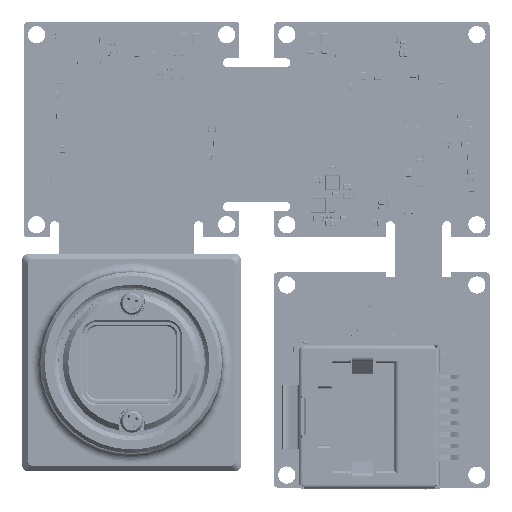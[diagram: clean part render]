
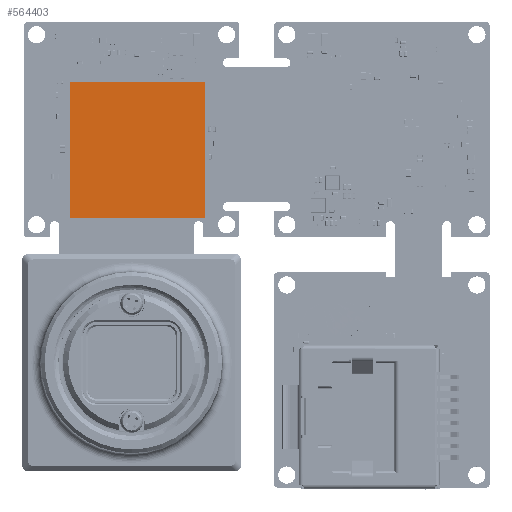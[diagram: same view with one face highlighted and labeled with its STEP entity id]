
A CAD part, top view. The second image highlights one B-rep face of the part: STEP entity #564403.
In plain terms, the highlighted planar face has unit normal (0, 0, 1).
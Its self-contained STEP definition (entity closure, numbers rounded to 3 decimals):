
#22840 = EDGE_CURVE ( 'NONE', #591928, #24368, #495520, .T. ) ;
#24368 = VERTEX_POINT ( 'NONE', #330013 ) ;
#34378 = ORIENTED_EDGE ( 'NONE', *, *, #433440, .T. ) ;
#49668 = FACE_OUTER_BOUND ( 'NONE', #302715, .T. ) ;
#84960 = DIRECTION ( 'NONE',  ( 0., -1., 0. ) ) ;
#111087 = EDGE_CURVE ( 'NONE', #24368, #458310, #391848, .T. ) ;
#139451 = ORIENTED_EDGE ( 'NONE', *, *, #111087, .T. ) ;
#165802 = CARTESIAN_POINT ( 'NONE',  ( 8.16, 15.999, -0.75 ) ) ;
#186534 = VERTEX_POINT ( 'NONE', #283604 ) ;
#193453 = LINE ( 'NONE', #494089, #255532 ) ;
#221272 = ORIENTED_EDGE ( 'NONE', *, *, #22840, .T. ) ;
#228778 = CARTESIAN_POINT ( 'NONE',  ( 8.16, 30.999, -0.75 ) ) ;
#255532 = VECTOR ( 'NONE', #296941, 1000. ) ;
#282853 = EDGE_CURVE ( 'NONE', #186534, #591928, #193453, .T. ) ;
#283604 = CARTESIAN_POINT ( 'NONE',  ( -6.84, 30.999, -0.75 ) ) ;
#296941 = DIRECTION ( 'NONE',  ( 0., -1., 0. ) ) ;
#302715 = EDGE_LOOP ( 'NONE', ( #375932, #221272, #139451, #34378 ) ) ;
#330013 = CARTESIAN_POINT ( 'NONE',  ( 8.16, 15.999, -0.75 ) ) ;
#333776 = PLANE ( 'NONE',  #568819 ) ;
#363624 = VECTOR ( 'NONE', #364773, 1000. ) ;
#364773 = DIRECTION ( 'NONE',  ( 1., 0., 0. ) ) ;
#375932 = ORIENTED_EDGE ( 'NONE', *, *, #282853, .T. ) ;
#391848 = LINE ( 'NONE', #165802, #469606 ) ;
#433440 = EDGE_CURVE ( 'NONE', #458310, #186534, #508062, .T. ) ;
#458310 = VERTEX_POINT ( 'NONE', #228778 ) ;
#469606 = VECTOR ( 'NONE', #560109, 1000. ) ;
#474866 = DIRECTION ( 'NONE',  ( 0., 0., -1. ) ) ;
#476979 = CARTESIAN_POINT ( 'NONE',  ( 8.16, 30.999, -0.75 ) ) ;
#494089 = CARTESIAN_POINT ( 'NONE',  ( -6.84, 30.999, -0.75 ) ) ;
#495520 = LINE ( 'NONE', #555650, #363624 ) ;
#508062 = LINE ( 'NONE', #555158, #624239 ) ;
#508732 = CARTESIAN_POINT ( 'NONE',  ( -6.84, 15.999, -0.75 ) ) ;
#555158 = CARTESIAN_POINT ( 'NONE',  ( 8.16, 30.999, -0.75 ) ) ;
#555650 = CARTESIAN_POINT ( 'NONE',  ( -6.84, 15.999, -0.75 ) ) ;
#560109 = DIRECTION ( 'NONE',  ( 0., 1., 0. ) ) ;
#564403 = ADVANCED_FACE ( 'NONE', ( #49668 ), #333776, .F. ) ;
#568819 = AXIS2_PLACEMENT_3D ( 'NONE', #476979, #474866, #84960 ) ;
#591928 = VERTEX_POINT ( 'NONE', #508732 ) ;
#604814 = DIRECTION ( 'NONE',  ( -1., 0., 0. ) ) ;
#624239 = VECTOR ( 'NONE', #604814, 1000. ) ;
